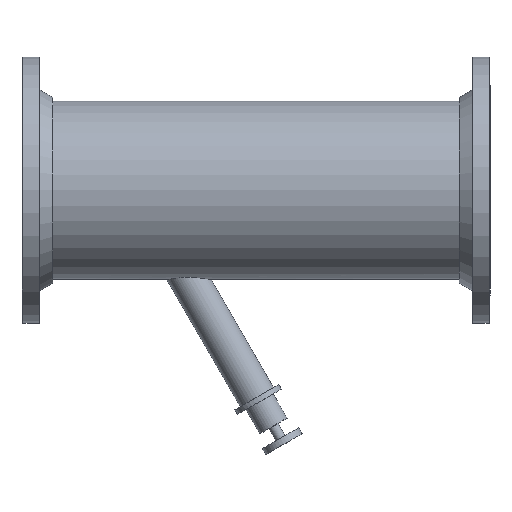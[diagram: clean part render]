
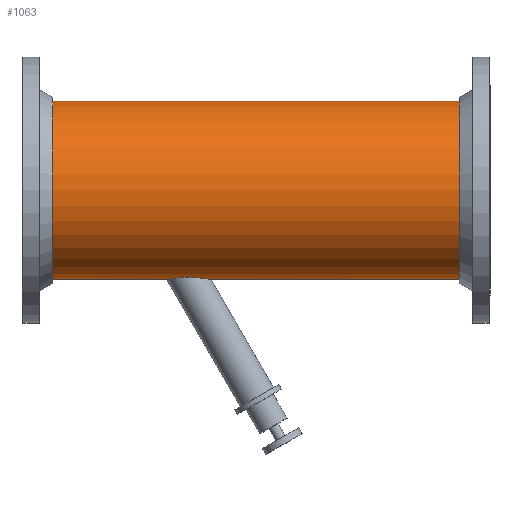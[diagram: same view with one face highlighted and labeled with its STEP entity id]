
A CAD part, top view. The second image highlights one B-rep face of the part: STEP entity #1063.
In plain terms, the highlighted cylindrical face has radius 161.925 mm (diameter 323.85 mm), a full revolution.
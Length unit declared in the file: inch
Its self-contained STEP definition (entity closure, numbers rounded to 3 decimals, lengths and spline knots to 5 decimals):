
#120=B_SPLINE_CURVE_WITH_KNOTS('',3,(#1673,#1674,#1675,#1676,#1677,#1678,
#1679,#1680,#1681,#1682,#1683,#1684,#1685,#1686,#1687,#1688,#1689,#1690,
#1691,#1692,#1693,#1694,#1695,#1696,#1697,#1698,#1699,#1700,#1701,#1702,
#1703,#1704,#1705,#1706),.UNSPECIFIED.,.F.,.F.,(4,2,2,2,2,2,2,2,2,2,2,2,
2,2,2,2,4),(5.84815,6.50825,7.16835,7.82844,
8.48854,9.28991,10.09129,10.89266,11.69403,
12.42912,13.16421,13.89929,14.63438,15.28608,
15.93779,16.5895,17.2412),.UNSPECIFIED.);
#121=B_SPLINE_CURVE_WITH_KNOTS('',3,(#1713,#1714,#1715,#1716,#1717,#1718,
#1719,#1720,#1721,#1722,#1723,#1724,#1725,#1726,#1727,#1728,#1729,#1730),
 .UNSPECIFIED.,.F.,.F.,(4,2,2,2,2,2,2,2,4),(17.2412,17.89291,
18.54461,19.19632,19.84802,20.58311,21.3182,
22.05328,22.78837),.UNSPECIFIED.);
#122=B_SPLINE_CURVE_WITH_KNOTS('',3,(#1731,#1732,#1733,#1734,#1735,#1736,
#1737,#1738,#1739,#1740,#1741,#1742,#1743,#1744,#1745,#1746,#1747,#1748),
 .UNSPECIFIED.,.F.,.F.,(4,2,2,2,2,2,2,2,4),(0.,0.76351,1.52703,
2.29054,3.05405,3.75258,4.4511,5.14963,
5.84815),.UNSPECIFIED.);
#124=FACE_OUTER_BOUND('',#174,.T.);
#174=EDGE_LOOP('',(#703,#704,#705,#706,#707,#708,#709,#710,#711,#712,#713));
#284=LINE('',#1671,#322);
#285=LINE('',#1708,#323);
#322=VECTOR('',#1310,6.375);
#323=VECTOR('',#1311,6.375);
#363=CIRCLE('',#1138,6.375);
#364=CIRCLE('',#1139,6.375);
#365=CIRCLE('',#1140,6.375);
#366=CIRCLE('',#1141,6.375);
#461=VERTEX_POINT('',#1667);
#462=VERTEX_POINT('',#1668);
#463=VERTEX_POINT('',#1670);
#464=VERTEX_POINT('',#1672);
#465=VERTEX_POINT('',#1707);
#466=VERTEX_POINT('',#1709);
#467=VERTEX_POINT('',#1712);
#563=EDGE_CURVE('',#461,#462,#363,.T.);
#564=EDGE_CURVE('',#462,#463,#284,.T.);
#565=EDGE_CURVE('',#463,#464,#120,.T.);
#566=EDGE_CURVE('',#464,#465,#285,.T.);
#567=EDGE_CURVE('',#465,#466,#364,.T.);
#568=EDGE_CURVE('',#466,#465,#365,.T.);
#569=EDGE_CURVE('',#464,#467,#121,.T.);
#570=EDGE_CURVE('',#467,#463,#122,.T.);
#571=EDGE_CURVE('',#462,#461,#366,.T.);
#703=ORIENTED_EDGE('',*,*,#563,.T.);
#704=ORIENTED_EDGE('',*,*,#564,.T.);
#705=ORIENTED_EDGE('',*,*,#565,.T.);
#706=ORIENTED_EDGE('',*,*,#566,.T.);
#707=ORIENTED_EDGE('',*,*,#567,.T.);
#708=ORIENTED_EDGE('',*,*,#568,.T.);
#709=ORIENTED_EDGE('',*,*,#566,.F.);
#710=ORIENTED_EDGE('',*,*,#569,.T.);
#711=ORIENTED_EDGE('',*,*,#570,.T.);
#712=ORIENTED_EDGE('',*,*,#564,.F.);
#713=ORIENTED_EDGE('',*,*,#571,.T.);
#976=CYLINDRICAL_SURFACE('',#1137,6.375);
#1063=ADVANCED_FACE('',(#124),#976,.T.);
#1137=AXIS2_PLACEMENT_3D('',#1666,#1306,#1307);
#1138=AXIS2_PLACEMENT_3D('',#1669,#1308,#1309);
#1139=AXIS2_PLACEMENT_3D('',#1710,#1312,#1313);
#1140=AXIS2_PLACEMENT_3D('',#1711,#1314,#1315);
#1141=AXIS2_PLACEMENT_3D('',#1749,#1316,#1317);
#1306=DIRECTION('center_axis',(1.,0.,0.));
#1307=DIRECTION('ref_axis',(0.,1.,0.));
#1308=DIRECTION('center_axis',(-1.,0.,0.));
#1309=DIRECTION('ref_axis',(0.,1.,0.));
#1310=DIRECTION('',(-1.,0.,0.));
#1311=DIRECTION('',(-1.,0.,0.));
#1312=DIRECTION('center_axis',(1.,0.,0.));
#1313=DIRECTION('ref_axis',(0.,1.,0.));
#1314=DIRECTION('center_axis',(1.,0.,0.));
#1315=DIRECTION('ref_axis',(0.,1.,0.));
#1316=DIRECTION('center_axis',(-1.,0.,0.));
#1317=DIRECTION('ref_axis',(0.,1.,0.));
#1666=CARTESIAN_POINT('Origin',(0.,0.,0.));
#1667=CARTESIAN_POINT('',(14.54,6.375,0.));
#1668=CARTESIAN_POINT('',(14.54,-6.375,0.));
#1669=CARTESIAN_POINT('Origin',(14.54,0.,0.));
#1670=CARTESIAN_POINT('',(-3.21059,-6.375,0.));
#1671=CARTESIAN_POINT('',(0.,-6.375,0.));
#1672=CARTESIAN_POINT('',(-6.38601,-6.375,0.));
#1673=CARTESIAN_POINT('Ctrl Pts',(-3.21059,-6.375,0.));
#1674=CARTESIAN_POINT('Ctrl Pts',(-3.21059,-6.375,-0.08663));
#1675=CARTESIAN_POINT('Ctrl Pts',(-3.22124,-6.37319,-0.17511));
#1676=CARTESIAN_POINT('Ctrl Pts',(-3.26435,-6.36604,-0.34898));
#1677=CARTESIAN_POINT('Ctrl Pts',(-3.29678,-6.3607,-0.43438));
#1678=CARTESIAN_POINT('Ctrl Pts',(-3.37995,-6.34757,-0.5963));
#1679=CARTESIAN_POINT('Ctrl Pts',(-3.43075,-6.33977,-0.67301));
#1680=CARTESIAN_POINT('Ctrl Pts',(-3.5447,-6.32325,-0.81372));
#1681=CARTESIAN_POINT('Ctrl Pts',(-3.60784,-6.31455,-0.87773));
#1682=CARTESIAN_POINT('Ctrl Pts',(-3.75214,-6.29603,-1.0027));
#1683=CARTESIAN_POINT('Ctrl Pts',(-3.84066,-6.28555,-1.06568));
#1684=CARTESIAN_POINT('Ctrl Pts',(-4.03112,-6.26586,-1.17591));
#1685=CARTESIAN_POINT('Ctrl Pts',(-4.13305,-6.25668,-1.22316));
#1686=CARTESIAN_POINT('Ctrl Pts',(-4.34386,-6.24134,-1.29914));
#1687=CARTESIAN_POINT('Ctrl Pts',(-4.45284,-6.2352,-1.32789));
#1688=CARTESIAN_POINT('Ctrl Pts',(-4.67079,-6.227,-1.36583));
#1689=CARTESIAN_POINT('Ctrl Pts',(-4.77976,-6.22495,-1.375));
#1690=CARTESIAN_POINT('Ctrl Pts',(-4.9814,-6.22495,-1.375));
#1691=CARTESIAN_POINT('Ctrl Pts',(-5.08162,-6.22668,-1.36727));
#1692=CARTESIAN_POINT('Ctrl Pts',(-5.28158,-6.23405,-1.33326));
#1693=CARTESIAN_POINT('Ctrl Pts',(-5.38133,-6.23969,-1.30698));
#1694=CARTESIAN_POINT('Ctrl Pts',(-5.57292,-6.25421,-1.23562));
#1695=CARTESIAN_POINT('Ctrl Pts',(-5.66491,-6.26309,-1.19047));
#1696=CARTESIAN_POINT('Ctrl Pts',(-5.8349,-6.28243,-1.08383));
#1697=CARTESIAN_POINT('Ctrl Pts',(-5.91289,-6.29286,-1.02232));
#1698=CARTESIAN_POINT('Ctrl Pts',(-6.04263,-6.31199,-0.89614));
#1699=CARTESIAN_POINT('Ctrl Pts',(-6.10006,-6.3213,-0.82898));
#1700=CARTESIAN_POINT('Ctrl Pts',(-6.20141,-6.33882,-0.68223));
#1701=CARTESIAN_POINT('Ctrl Pts',(-6.24533,-6.347,-0.60265));
#1702=CARTESIAN_POINT('Ctrl Pts',(-6.31589,-6.36061,-0.43619));
#1703=CARTESIAN_POINT('Ctrl Pts',(-6.3426,-6.36603,-0.34918));
#1704=CARTESIAN_POINT('Ctrl Pts',(-6.37766,-6.37323,-0.17384));
#1705=CARTESIAN_POINT('Ctrl Pts',(-6.38601,-6.375,-0.08553));
#1706=CARTESIAN_POINT('Ctrl Pts',(-6.38601,-6.375,0.));
#1707=CARTESIAN_POINT('',(-14.54,-6.375,0.));
#1708=CARTESIAN_POINT('',(0.,-6.375,0.));
#1709=CARTESIAN_POINT('',(-14.54,6.375,0.));
#1710=CARTESIAN_POINT('Origin',(-14.54,0.,0.));
#1711=CARTESIAN_POINT('Origin',(-14.54,0.,0.));
#1712=CARTESIAN_POINT('',(-4.88493,-6.22495,1.375));
#1713=CARTESIAN_POINT('Ctrl Pts',(-6.38601,-6.375,0.));
#1714=CARTESIAN_POINT('Ctrl Pts',(-6.38601,-6.375,0.08553));
#1715=CARTESIAN_POINT('Ctrl Pts',(-6.37766,-6.37323,0.17384));
#1716=CARTESIAN_POINT('Ctrl Pts',(-6.3426,-6.36603,0.34918));
#1717=CARTESIAN_POINT('Ctrl Pts',(-6.31589,-6.36061,0.43619));
#1718=CARTESIAN_POINT('Ctrl Pts',(-6.24533,-6.347,0.60265));
#1719=CARTESIAN_POINT('Ctrl Pts',(-6.20141,-6.33882,0.68223));
#1720=CARTESIAN_POINT('Ctrl Pts',(-6.10006,-6.3213,0.82898));
#1721=CARTESIAN_POINT('Ctrl Pts',(-6.04263,-6.31199,0.89614));
#1722=CARTESIAN_POINT('Ctrl Pts',(-5.91289,-6.29286,1.02232));
#1723=CARTESIAN_POINT('Ctrl Pts',(-5.8349,-6.28243,1.08383));
#1724=CARTESIAN_POINT('Ctrl Pts',(-5.66491,-6.26309,1.19047));
#1725=CARTESIAN_POINT('Ctrl Pts',(-5.57292,-6.25421,1.23562));
#1726=CARTESIAN_POINT('Ctrl Pts',(-5.38133,-6.23969,1.30698));
#1727=CARTESIAN_POINT('Ctrl Pts',(-5.28158,-6.23405,1.33326));
#1728=CARTESIAN_POINT('Ctrl Pts',(-5.08162,-6.22668,1.36727));
#1729=CARTESIAN_POINT('Ctrl Pts',(-4.9814,-6.22495,1.375));
#1730=CARTESIAN_POINT('Ctrl Pts',(-4.88493,-6.22495,1.375));
#1731=CARTESIAN_POINT('Ctrl Pts',(-4.88493,-6.22495,1.375));
#1732=CARTESIAN_POINT('Ctrl Pts',(-4.78473,-6.22495,1.375));
#1733=CARTESIAN_POINT('Ctrl Pts',(-4.68078,-6.22681,1.36667));
#1734=CARTESIAN_POINT('Ctrl Pts',(-4.47243,-6.2343,1.33208));
#1735=CARTESIAN_POINT('Ctrl Pts',(-4.36803,-6.23993,1.30582));
#1736=CARTESIAN_POINT('Ctrl Pts',(-4.16544,-6.25406,1.23636));
#1737=CARTESIAN_POINT('Ctrl Pts',(-4.06716,-6.26256,1.19313));
#1738=CARTESIAN_POINT('Ctrl Pts',(-3.88264,-6.28093,1.09234));
#1739=CARTESIAN_POINT('Ctrl Pts',(-3.7964,-6.29078,1.03476));
#1740=CARTESIAN_POINT('Ctrl Pts',(-3.64756,-6.30924,0.9151));
#1741=CARTESIAN_POINT('Ctrl Pts',(-3.57852,-6.31854,0.84971));
#1742=CARTESIAN_POINT('Ctrl Pts',(-3.45366,-6.33633,0.7049));
#1743=CARTESIAN_POINT('Ctrl Pts',(-3.39784,-6.34481,0.62547));
#1744=CARTESIAN_POINT('Ctrl Pts',(-3.30621,-6.35917,0.45691));
#1745=CARTESIAN_POINT('Ctrl Pts',(-3.27034,-6.36505,0.36759));
#1746=CARTESIAN_POINT('Ctrl Pts',(-3.22251,-6.37297,0.18497));
#1747=CARTESIAN_POINT('Ctrl Pts',(-3.21059,-6.375,0.09167));
#1748=CARTESIAN_POINT('Ctrl Pts',(-3.21059,-6.375,0.));
#1749=CARTESIAN_POINT('Origin',(14.54,0.,0.));
